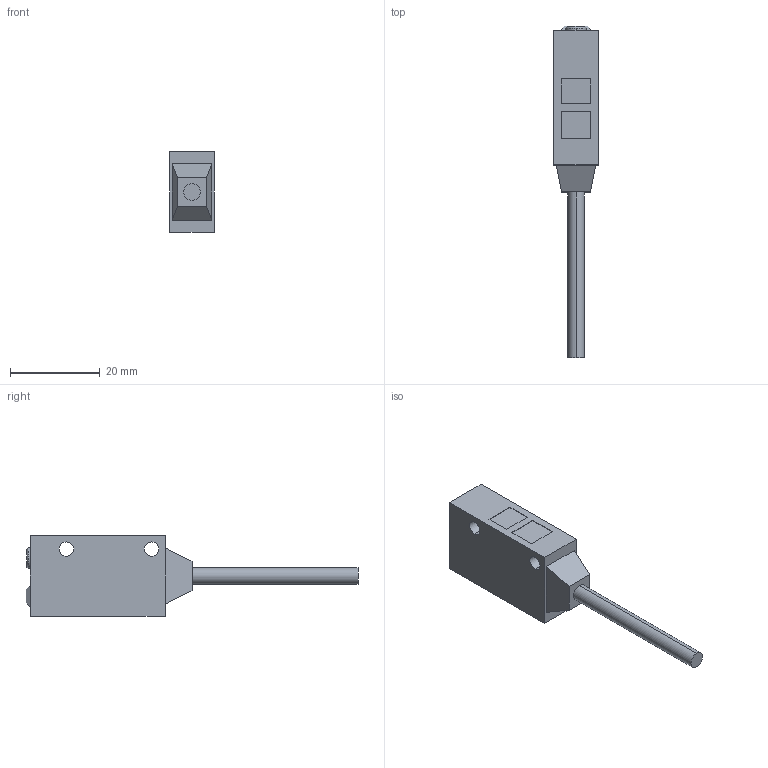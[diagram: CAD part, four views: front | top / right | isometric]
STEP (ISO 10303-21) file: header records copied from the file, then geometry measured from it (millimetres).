
FILE_DESCRIPTION (( 'STEP AP203' ), '1' );
FILE_NAME ('ex-44_元図2.STEP', '2017-12-13T02:07:46', ( '' ), ( '' ), 'SwSTEP 2.0', 'SolidWorks 2014', '' );
FILE_SCHEMA (( 'CONFIG_CONTROL_DESIGN' ));
Length unit declared in the file: millimetre
Products named in the file (1): ex-44_元図2
Bounding box: 10 x 74 x 18 mm (x, y, z)
Volume: 6106.1 mm3; surface area: 2818.2 mm2
Topology: 1 solids, 1 shells, 55 faces, 133 edges, 87 vertices
Faces by surface type: plane 43, cylinder 10, cone 2
Entity records: 1674 total; most frequent: CARTESIAN_POINT 276, DIRECTION 267, ORIENTED_EDGE 266, EDGE_CURVE 133, LINE 111, VECTOR 111, VERTEX_POINT 87, AXIS2_PLACEMENT_3D 78
